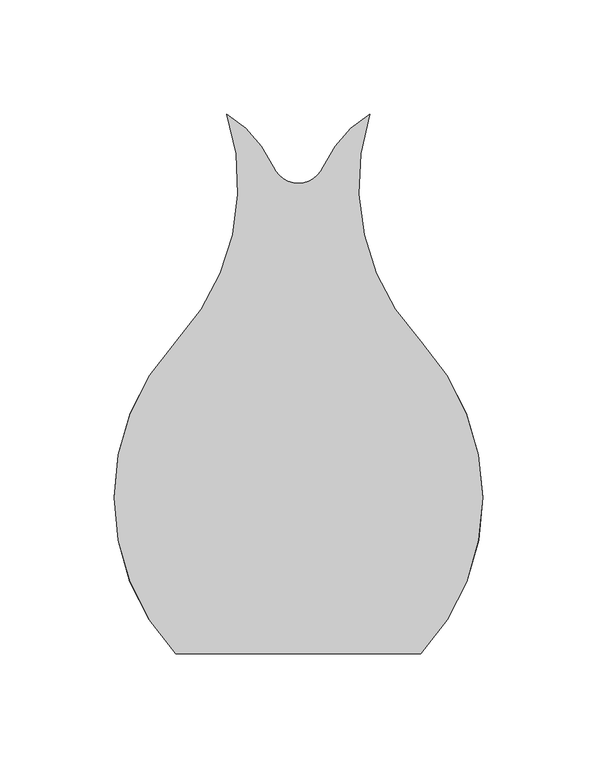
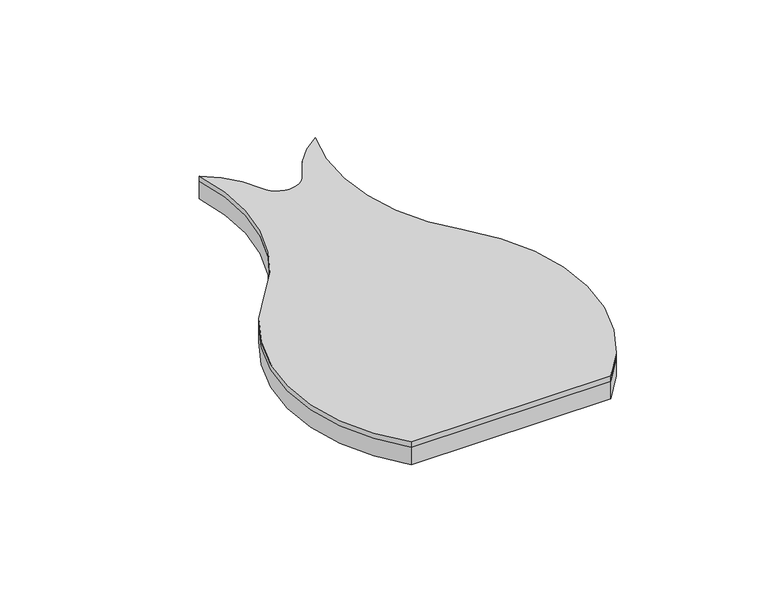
"""IFC4 building model written with IfcOpenShell, lengths in millimetres: proxy geometry, FilzFelt_Fish_Block : Fish Block."""

from ifc_helpers import new_model, si_unit, frame, origin, place, context, project, spatial, polyline, circle_curve, source, transform, mapped, element, save
from ifc_brep_helpers import plane_surface, cylinder_surface, revolved_surface, advanced_brep


def specialty_equipment_cac041dc(model_context):
    return source(origin(), model_context, "Body", "AdvancedBrep", [
        advanced_brep(
        [(53.5486457, 68.6120133, 10.0210937), (53.7372709, -68.4105946, 10.0210937), (-53.7372709, -68.4105946, 10.0210937), (-53.5486457, 68.6120133, 10.0210937), (-31.2619065, 168.1141956, 10.0210937), (-11.0103348, 145.0347036, 10.0210937), (11.0103348, 145.0347036, 10.0210937), (31.2619065, 168.1141956, 10.0210937), (-53.5486457, 68.6120133, 12.9976563), (-80.7142226, 0.0, 12.9976563), (-53.7372709, -68.4105946, 12.9976563), (53.7372709, -68.4105946, 12.9976563), (80.7142226, 0.0, 12.9976563), (53.5486457, 68.6120133, 12.9976563), (31.2619065, 168.1141956, 12.9976563), (11.0103348, 145.0347036, 12.9976563), (-11.0103348, 145.0347036, 12.9976563), (-31.2619065, 168.1141956, 12.9976563)],
        [
            (0, 1, circle_curve(frame((-19.5151403, 0.0, 10.0210937), z_axis=(0.0, 0.0, -1.0), x_axis=(-1.0, 0.0, 0.0)), 100.2293629)),
            (1, 2),
            (2, 3, circle_curve(frame((19.5151403, 0.0, 10.0210937), z_axis=(0.0, 0.0, -1.0), x_axis=(-1.0, 0.0, 0.0)), 100.2293629)),
            (3, 4, circle_curve(frame((-126.6124317, 137.2240266, 10.0210937), z_axis=(0.0, 0.0, 1.0), x_axis=(-1.0, 0.0, 0.0)), 100.2293629)),
            (4, 5, circle_curve(frame((-57.9263497, 124.2921115, 10.0210937), z_axis=(0.0, 0.0, -1.0), x_axis=(-1.0, 0.0, 0.0)), 51.2968574)),
            (5, 6, circle_curve(frame((0.0, 149.9026124, 10.0210937), z_axis=(0.0, 0.0, 1.0), x_axis=(-1.0, 0.0, 0.0)), 12.0384388)),
            (6, 7, circle_curve(frame((57.9263497, 124.2921115, 10.0210937), z_axis=(0.0, 0.0, -1.0), x_axis=(-1.0, 0.0, 0.0)), 51.2968574)),
            (7, 0, circle_curve(frame((126.6124317, 137.2240266, 10.0210937), z_axis=(0.0, 0.0, 1.0), x_axis=(-1.0, 0.0, 0.0)), 100.2293629)),
            (8, 9, circle_curve(frame((19.5151403, 0.0, 12.9976563), z_axis=(0.0, 0.0, 1.0), x_axis=(-1.0, 0.0, 0.0)), 100.2293629)),
            (9, 10, circle_curve(frame((19.5151403, 0.0, 12.9976563), z_axis=(0.0, 0.0, 1.0), x_axis=(-1.0, 0.0, 0.0)), 100.2293629)),
            (10, 11),
            (11, 12, circle_curve(frame((-19.5151403, 0.0, 12.9976563), z_axis=(0.0, 0.0, 1.0), x_axis=(-1.0, 0.0, 0.0)), 100.2293629)),
            (12, 13, circle_curve(frame((-19.5151403, 0.0, 12.9976563), z_axis=(0.0, 0.0, 1.0), x_axis=(-1.0, 0.0, 0.0)), 100.2293629)),
            (13, 14, circle_curve(frame((126.6124317, 137.2240266, 12.9976563), z_axis=(0.0, 0.0, -1.0), x_axis=(-1.0, 0.0, 0.0)), 100.2293629)),
            (14, 15, circle_curve(frame((57.9263497, 124.2921115, 12.9976563), z_axis=(0.0, 0.0, 1.0), x_axis=(-1.0, 0.0, 0.0)), 51.2968574)),
            (15, 16, circle_curve(frame((0.0, 149.9026124, 12.9976563), z_axis=(0.0, 0.0, -1.0), x_axis=(-1.0, 0.0, 0.0)), 12.0384388)),
            (16, 17, circle_curve(frame((-57.9263497, 124.2921115, 12.9976563), z_axis=(0.0, 0.0, 1.0), x_axis=(-1.0, 0.0, 0.0)), 51.2968574)),
            (17, 8, circle_curve(frame((-126.6124317, 137.2240266, 12.9976563), z_axis=(0.0, 0.0, -1.0), x_axis=(-1.0, 0.0, 0.0)), 100.2293629)),
            (11, 1),
            (0, 13),
            (7, 14),
            (6, 15),
            (5, 16),
            (4, 17),
            (3, 8),
            (2, 10),
        ],
        [
            plane_surface(frame((0.0, 0.0, 10.0210937), z_axis=(0.0, 0.0, -1.0), x_axis=(0.0, 1.0, 0.0))),
            plane_surface(frame((0.0, 0.0, 12.9976563), z_axis=(0.0, 0.0, 1.0), x_axis=(0.0, 1.0, 0.0))),
            cylinder_surface(frame((-19.5151403, 0.0, 10.0210937), z_axis=(0.0, 0.0, -1.0), x_axis=(-1.0, 0.0, 0.0)), 100.2293629),
            revolved_surface(polyline([(26.383068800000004, 137.2240266, 12.9976563), (26.383068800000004, 137.2240266, 10.0210937)]), (126.6124317, 137.2240266, 10.0210937), (0.0, 0.0, 1.0)),
            cylinder_surface(frame((57.9263497, 124.2921115, 10.0210937), z_axis=(0.0, 0.0, -1.0), x_axis=(-1.0, 0.0, 0.0)), 51.2968574),
            revolved_surface(polyline([(-12.0384388, 149.9026124, 12.9976563), (-12.0384388, 149.9026124, 10.0210937)]), (0.0, 149.9026124, 10.0210937), (0.0, 0.0, 1.0)),
            cylinder_surface(frame((-57.9263497, 124.2921115, 10.0210937), z_axis=(0.0, 0.0, -1.0), x_axis=(-1.0, 0.0, 0.0)), 51.2968574),
            revolved_surface(polyline([(-226.84179460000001, 137.2240266, 12.9976563), (-226.84179460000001, 137.2240266, 10.0210937)]), (-126.6124317, 137.2240266, 10.0210937), (0.0, 0.0, 1.0)),
            cylinder_surface(frame((19.5151403, 0.0, 10.0210937), z_axis=(0.0, 0.0, -1.0), x_axis=(-1.0, 0.0, 0.0)), 100.2293629),
            plane_surface(frame((-112.4642226, -68.4105946, 12.9976562), z_axis=(0.0, -1.0, 0.0), x_axis=(-1.0, 0.0, 0.0))),
        ],
        [
            (0, [[1, 2, 3, 4, 5, 6, 7, 8]]),
            (1, [[9, 10, 11, 12, 13, 14, 15, 16, 17, 18]]),
            (2, [[-13, -12, 19, -1, 20]]),
            (3, [[21, -14, -20, -8]]),
            (4, [[22, -15, -21, -7]]),
            (5, [[23, -16, -22, -6]]),
            (6, [[24, -17, -23, -5]]),
            (7, [[25, -18, -24, -4]]),
            (8, [[-3, 26, -10, -9, -25]]),
            (9, [[-19, -11, -26, -2]]),
        ],
    ),
        advanced_brep(
        [(31.2619065, 168.1141956, 0.0), (53.5486457, 68.6120133, 0.0), (80.7142226, 0.0, 0.0), (53.7372709, -68.4105946, 0.0), (-53.7372709, -68.4105946, 0.0), (-80.7142226, 0.0, 0.0), (-53.5486457, 68.6120133, 0.0), (-31.2619065, 168.1141956, 0.0), (-11.0103348, 145.0347036, 0.0), (11.0103348, 145.0347036, 0.0), (31.2619065, 168.1141956, 10.0210937), (11.0103348, 145.0347036, 10.0210937), (-11.0103348, 145.0347036, 10.0210937), (-31.2619065, 168.1141956, 10.0210937), (-53.5486457, 68.6120133, 10.0210937), (-53.7372709, -68.4105946, 10.0210937), (53.7372709, -68.4105946, 10.0210937), (53.5486457, 68.6120133, 10.0210937)],
        [
            (0, 1, circle_curve(frame((126.6124317, 137.2240266, 0.0), z_axis=(0.0, 0.0, 1.0), x_axis=(-1.0, 0.0, 0.0)), 100.2293629)),
            (1, 2, circle_curve(frame((-19.5151403, 0.0, 0.0), z_axis=(0.0, 0.0, -1.0), x_axis=(-1.0, 0.0, 0.0)), 100.2293629)),
            (2, 3, circle_curve(frame((-19.5151403, 0.0, 0.0), z_axis=(0.0, 0.0, -1.0), x_axis=(-1.0, 0.0, 0.0)), 100.2293629)),
            (3, 4),
            (4, 5, circle_curve(frame((19.5151403, 0.0, 0.0), z_axis=(0.0, 0.0, -1.0), x_axis=(-1.0, 0.0, 0.0)), 100.2293629)),
            (5, 6, circle_curve(frame((19.5151403, 0.0, 0.0), z_axis=(0.0, 0.0, -1.0), x_axis=(-1.0, 0.0, 0.0)), 100.2293629)),
            (6, 7, circle_curve(frame((-126.6124317, 137.2240266, 0.0), z_axis=(0.0, 0.0, 1.0), x_axis=(-1.0, 0.0, 0.0)), 100.2293629)),
            (7, 8, circle_curve(frame((-57.9263497, 124.2921115, 0.0), z_axis=(0.0, 0.0, -1.0), x_axis=(-1.0, 0.0, 0.0)), 51.2968574)),
            (8, 9, circle_curve(frame((0.0, 149.9026124, 0.0), z_axis=(0.0, 0.0, 1.0), x_axis=(-1.0, 0.0, 0.0)), 12.0384388)),
            (9, 0, circle_curve(frame((57.9263497, 124.2921115, 0.0), z_axis=(0.0, 0.0, -1.0), x_axis=(-1.0, 0.0, 0.0)), 51.2968574)),
            (10, 11, circle_curve(frame((57.9263497, 124.2921115, 10.0210937), z_axis=(0.0, 0.0, 1.0), x_axis=(-1.0, 0.0, 0.0)), 51.2968574)),
            (11, 12, circle_curve(frame((0.0, 149.9026124, 10.0210937), z_axis=(0.0, 0.0, -1.0), x_axis=(-1.0, 0.0, 0.0)), 12.0384388)),
            (12, 13, circle_curve(frame((-57.9263497, 124.2921115, 10.0210937), z_axis=(0.0, 0.0, 1.0), x_axis=(-1.0, 0.0, 0.0)), 51.2968574)),
            (13, 14, circle_curve(frame((-126.6124317, 137.2240266, 10.0210937), z_axis=(0.0, 0.0, -1.0), x_axis=(-1.0, 0.0, 0.0)), 100.2293629)),
            (14, 15, circle_curve(frame((19.5151403, 0.0, 10.0210937), z_axis=(0.0, 0.0, 1.0), x_axis=(-1.0, 0.0, 0.0)), 100.2293629)),
            (15, 16),
            (16, 17, circle_curve(frame((-19.5151403, 0.0, 10.0210937), z_axis=(0.0, 0.0, 1.0), x_axis=(-1.0, 0.0, 0.0)), 100.2293629)),
            (17, 10, circle_curve(frame((126.6124317, 137.2240266, 10.0210937), z_axis=(0.0, 0.0, -1.0), x_axis=(-1.0, 0.0, 0.0)), 100.2293629)),
            (9, 11),
            (10, 0),
            (8, 12),
            (7, 13),
            (6, 14),
            (4, 15),
            (16, 3),
            (1, 17),
        ],
        [
            plane_surface(frame((0.0, 0.0, 0.0), z_axis=(0.0, 0.0, -1.0), x_axis=(0.0, 1.0, 0.0))),
            plane_surface(frame((0.0, 0.0, 10.0210937), z_axis=(0.0, 0.0, 1.0), x_axis=(0.0, 1.0, 0.0))),
            cylinder_surface(frame((57.9263497, 124.2921115, 0.0), z_axis=(0.0, 0.0, -1.0), x_axis=(-1.0, 0.0, 0.0)), 51.2968574),
            revolved_surface(polyline([(-12.0384388, 149.9026124, 10.0210937), (-12.0384388, 149.9026124, 0.0)]), (0.0, 149.9026124, 0.0), (0.0, 0.0, 1.0)),
            cylinder_surface(frame((-57.9263497, 124.2921115, 0.0), z_axis=(0.0, 0.0, -1.0), x_axis=(-1.0, 0.0, 0.0)), 51.2968574),
            revolved_surface(polyline([(-226.84179460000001, 137.2240266, 10.0210937), (-226.84179460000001, 137.2240266, 0.0)]), (-126.6124317, 137.2240266, 0.0), (0.0, 0.0, 1.0)),
            cylinder_surface(frame((19.5151403, 0.0, 0.0), z_axis=(0.0, 0.0, -1.0), x_axis=(-1.0, 0.0, 0.0)), 100.2293629),
            cylinder_surface(frame((-19.5151403, 0.0, 0.0), z_axis=(0.0, 0.0, -1.0), x_axis=(-1.0, 0.0, 0.0)), 100.2293629),
            revolved_surface(polyline([(26.383068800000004, 137.2240266, 10.0210937), (26.383068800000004, 137.2240266, 0.0)]), (126.6124317, 137.2240266, 0.0), (0.0, 0.0, 1.0)),
            plane_surface(frame((-112.4642226, -68.4105946, 12.9976562), z_axis=(0.0, -1.0, 0.0), x_axis=(-1.0, 0.0, 0.0))),
        ],
        [
            (0, [[1, 2, 3, 4, 5, 6, 7, 8, 9, 10]]),
            (1, [[11, 12, 13, 14, 15, 16, 17, 18]]),
            (2, [[19, -11, 20, -10]]),
            (3, [[21, -12, -19, -9]]),
            (4, [[22, -13, -21, -8]]),
            (5, [[23, -14, -22, -7]]),
            (6, [[-6, -5, 24, -15, -23]]),
            (7, [[-17, 25, -3, -2, 26]]),
            (8, [[-20, -18, -26, -1]]),
            (9, [[-25, -16, -24, -4]]),
        ],
    ),
    ])


if __name__ == "__main__":
    model = new_model("IFC4")
    model_context = context("Model", 3, world=origin())
    ifc_project = project(units=[si_unit("LENGTHUNIT", "METRE", prefix="MILLI")], contexts=[model_context])
    site = spatial("IfcSite", under=ifc_project)
    building = spatial("IfcBuilding", under=site)
    placement = place(None, origin())
    specialty_equipment_shape = specialty_equipment_cac041dc(model_context)
    element("IfcBuildingElementProxy", 1, Name="FilzFelt_Fish_Block : Fish Block", ObjectType="FilzFelt_Fish_Block : Fish Block", at=placement, inside=building, context=model_context, shape_type="MappedRepresentation", body=[
        mapped(specialty_equipment_shape, transform((0.0, 0.0, 0.0), x_axis=(1.0, 0.0, 0.0), y_axis=(0.0, 1.0, 0.0), z_axis=(0.0, 0.0, 1.0))),
    ])
    save(model, "model.ifc")
